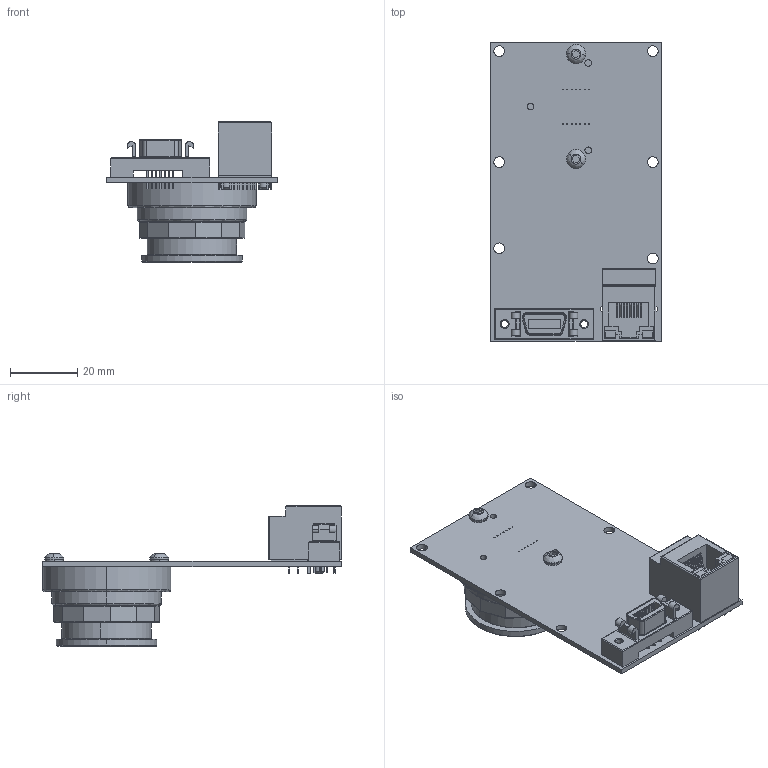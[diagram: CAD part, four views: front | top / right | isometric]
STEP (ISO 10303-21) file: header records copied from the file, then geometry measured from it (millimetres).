
FILE_DESCRIPTION (( 'STEP AP214' ), '1' );
FILE_NAME ('GB660C-V.STEP', '2013-07-31T22:43:05', ( '' ), ( '' ), 'SwSTEP 2.0', 'SolidWorks 2013', '' );
FILE_SCHEMA (( 'AUTOMOTIVE_DESIGN' ));
Length unit declared in the file: millimetre
Products named in the file (19): 260038-HALO HFJV1-E1G16-L12RL; 200084B-GB660-LS; 210046B-GB1380-650-LS; 260040-3M 10214-6212PC; 110031A-B EC-CCD LOCKING RING; 140027-SCREW BUTTON M3x6 SS; 140004-LOW COST C-MOUNT CAP; GB660C-V; 110094A-GB CCD GASKET; 220120-SONY ICX618AQA; 110003AC-CV CMOUNT RING; SONY ICX618 WINDOW; SONY ICX618 BODY; 100097A-IR FILTER ASSEMBLY 0.75 INCH; 110054AB-IR FILTER SUPPORT; 440002-IR CUT FILTER 22MM DIA; 110078A-GB MOUNT; 140008-washer spring lock #4; 200088B-GB660-LS-V
Assembly tree (20 placements, depth 4):
  GB660C-V
    140004-LOW COST C-MOUNT CAP
    140027-SCREW BUTTON M3x6 SS  x2
    110031A-B EC-CCD LOCKING RING
    200088B-GB660-LS-V
      260040-3M 10214-6212PC
      200084B-GB660-LS
        210046B-GB1380-650-LS
      260038-HALO HFJV1-E1G16-L12RL
    140008-washer spring lock #4  x2
    110078A-GB MOUNT
    100097A-IR FILTER ASSEMBLY 0.75 INCH
      440002-IR CUT FILTER 22MM DIA
      110054AB-IR FILTER SUPPORT
    220120-SONY ICX618AQA
      SONY ICX618 BODY
      SONY ICX618 WINDOW
    110094A-GB CCD GASKET
    110003AC-CV CMOUNT RING
Bounding box: 50.8 x 88.9 x 41.67 mm (x, y, z)
Volume: 22038.9 mm3; surface area: 29367.7 mm2
Topology: 16 solids, 16 shells, 1209 faces, 3076 edges, 1945 vertices
Faces by surface type: plane 721, cylinder 268, cone 194, bspline 26
Entity records: 50502 total; most frequent: CARTESIAN_POINT 7623, DIRECTION 6045, ORIENTED_EDGE 6024, EDGE_CURVE 3012, VECTOR 2211, LINE 2211, AXIS2_PLACEMENT_3D 1917, VERTEX_POINT 1909
